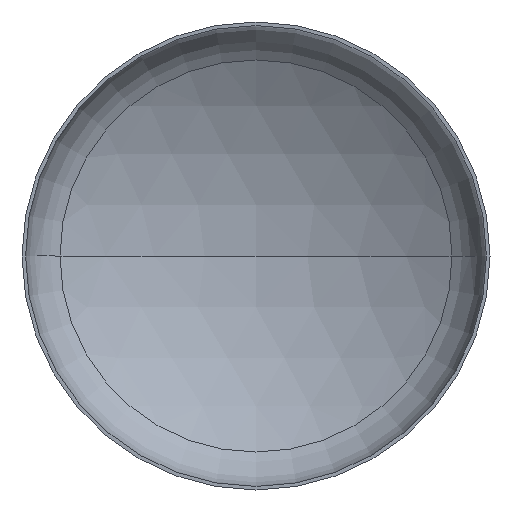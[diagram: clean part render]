
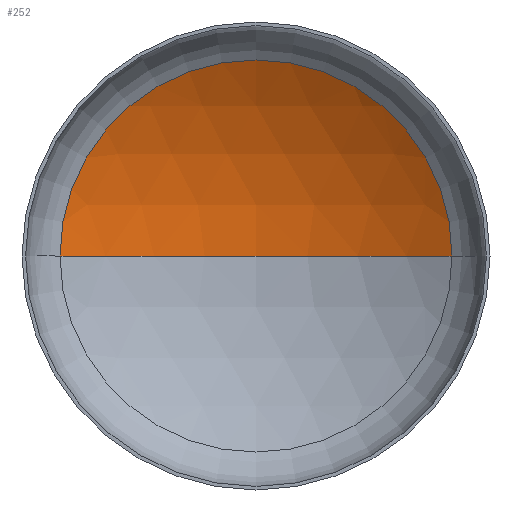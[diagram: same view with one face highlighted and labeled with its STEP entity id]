
A CAD part, front view. The second image highlights one B-rep face of the part: STEP entity #252.
In plain terms, the highlighted spherical face has radius 4800 mm.
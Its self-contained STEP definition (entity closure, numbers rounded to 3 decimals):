
#12 = VERTEX_POINT ( 'NONE', #283 ) ;
#42 = VERTEX_POINT ( 'NONE', #244 ) ;
#47 = DIRECTION ( 'NONE',  ( 0., 0., -1. ) ) ;
#54 = AXIS2_PLACEMENT_3D ( 'NONE', #236, #47, #385 ) ;
#62 = ORIENTED_EDGE ( 'NONE', *, *, #190, .T. ) ;
#77 = ORIENTED_EDGE ( 'NONE', *, *, #192, .T. ) ;
#97 = AXIS2_PLACEMENT_3D ( 'NONE', #361, #408, #367 ) ;
#105 = AXIS2_PLACEMENT_3D ( 'NONE', #128, #245, #267 ) ;
#109 = AXIS2_PLACEMENT_3D ( 'NONE', #214, #206, #213 ) ;
#114 = EDGE_LOOP ( 'NONE', ( #130, #77, #62 ) ) ;
#128 = CARTESIAN_POINT ( 'NONE',  ( 0., -3161.331, 0. ) ) ;
#130 = ORIENTED_EDGE ( 'NONE', *, *, #194, .F. ) ;
#135 = CIRCLE ( 'NONE', #97, 4800. ) ;
#150 = CIRCLE ( 'NONE', #109, 2513.342 ) ;
#189 = VERTEX_POINT ( 'NONE', #340 ) ;
#190 = EDGE_CURVE ( 'NONE', #189, #12, #150, .T. ) ;
#192 = EDGE_CURVE ( 'NONE', #42, #189, #234, .T. ) ;
#194 = EDGE_CURVE ( 'NONE', #42, #12, #135, .T. ) ;
#206 = DIRECTION ( 'NONE',  ( 0., -1., 0. ) ) ;
#213 = DIRECTION ( 'NONE',  ( 1., 0., 0. ) ) ;
#214 = CARTESIAN_POINT ( 'NONE',  ( 0., 928.06, 0. ) ) ;
#234 = CIRCLE ( 'NONE', #105, 4800. ) ;
#236 = CARTESIAN_POINT ( 'NONE',  ( 0., -3161.331, 0. ) ) ;
#244 = CARTESIAN_POINT ( 'NONE',  ( 0., 1638.669, 0. ) ) ;
#245 = DIRECTION ( 'NONE',  ( 0., 0., -1. ) ) ;
#252 = ADVANCED_FACE ( 'NONE', ( #273 ), #279, .F. ) ;
#267 = DIRECTION ( 'NONE',  ( -1., 0., 0. ) ) ;
#273 = FACE_OUTER_BOUND ( 'NONE', #114, .T. ) ;
#279 = SPHERICAL_SURFACE ( 'NONE', #54, 4800. ) ;
#283 = CARTESIAN_POINT ( 'NONE',  ( -2513.342, 928.06, 0. ) ) ;
#340 = CARTESIAN_POINT ( 'NONE',  ( 2513.342, 928.06, 0. ) ) ;
#361 = CARTESIAN_POINT ( 'NONE',  ( 0., -3161.331, 0. ) ) ;
#367 = DIRECTION ( 'NONE',  ( 1., 0., 0. ) ) ;
#385 = DIRECTION ( 'NONE',  ( -1., 0., 0. ) ) ;
#408 = DIRECTION ( 'NONE',  ( 0., 0., 1. ) ) ;
